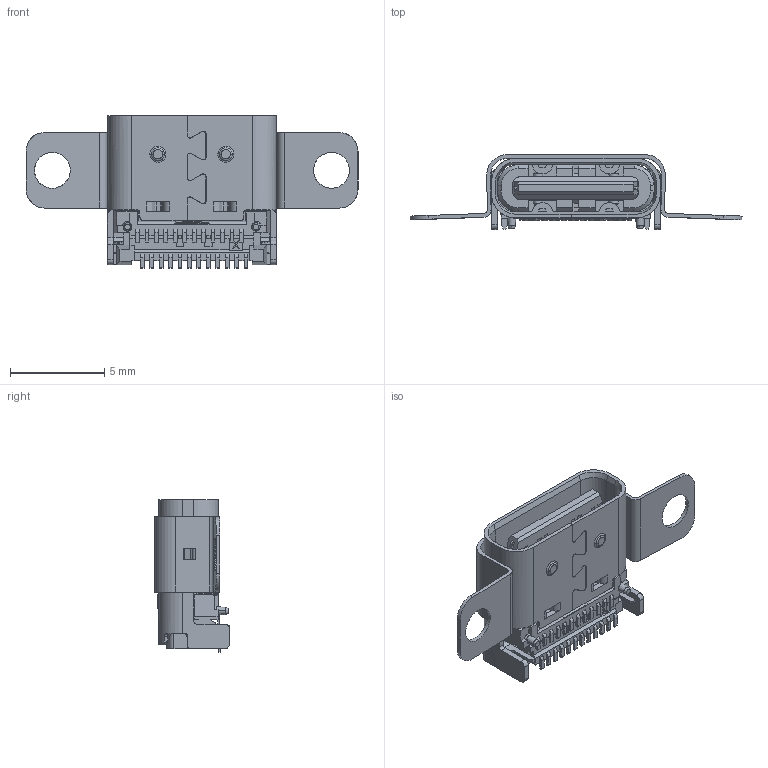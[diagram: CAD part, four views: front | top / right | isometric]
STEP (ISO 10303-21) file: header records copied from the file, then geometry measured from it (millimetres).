
FILE_DESCRIPTION (( 'STEP AP203' ), '1' );
FILE_NAME ('U5479-24PNM7.9L(1).STEP', '2026-09-10T01:50:11', ( '' ), ( '' ), 'SwSTEP 2.0', 'SolidWorks 2024', '' );
FILE_SCHEMA (( 'CONFIG_CONTROL_DESIGN' ));
Length unit declared in the file: millimetre
Products named in the file (2): CF 24P板上双排SMT铁壳四脚_4.55_有凸包 L=7.9; U5479-24PNM7.9L(1)
Assembly tree (1 placements, depth 2):
  U5479-24PNM7.9L(1)
    CF 24P板上双排SMT铁壳四脚_4.55_有凸包 L=7.9
Bounding box: 17.59 x 3.96 x 8.1 mm (x, y, z)
Volume: 139.4 mm3; surface area: 720.3 mm2
Topology: 2 solids, 4 shells, 1385 faces, 3936 edges, 2556 vertices
Faces by surface type: plane 961, cylinder 324, cone 47, bspline 37, torus 16
Entity records: 47066 total; most frequent: CARTESIAN_POINT 10854, ORIENTED_EDGE 7872, DIRECTION 7094, EDGE_CURVE 3936, LINE 2926, VECTOR 2926, VERTEX_POINT 2556, AXIS2_PLACEMENT_3D 2084
